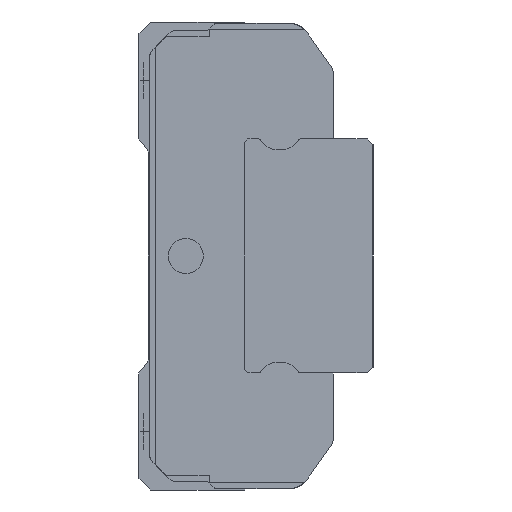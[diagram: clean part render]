
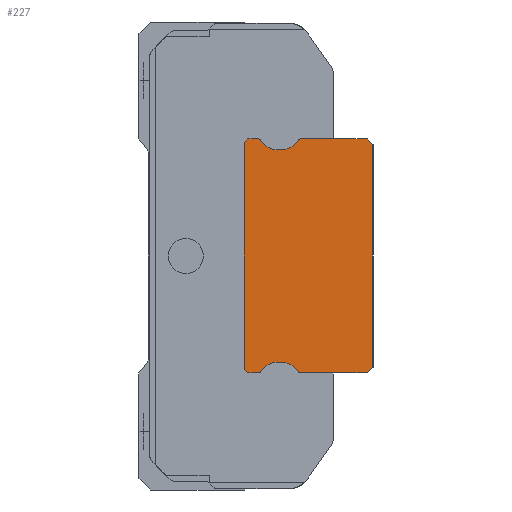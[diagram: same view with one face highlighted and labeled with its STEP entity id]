
A CAD part, left-side view. The second image highlights one B-rep face of the part: STEP entity #227.
In plain terms, the highlighted planar face has unit normal (-1, 0, 0).
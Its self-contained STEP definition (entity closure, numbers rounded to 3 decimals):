
#227 = ADVANCED_FACE( '', ( #668 ), #669, .F. );
#668 = FACE_OUTER_BOUND( '', #1295, .T. );
#669 = PLANE( '', #1296 );
#1295 = EDGE_LOOP( '', ( #2473, #2474, #2475, #2476, #2477, #2478, #2479, #2480, #2481, #2482, #2483, #2484, #2485, #2486, #2487, #2488, #2489, #2490 ) );
#1296 = AXIS2_PLACEMENT_3D( '', #2491, #2492, #2493 );
#2473 = ORIENTED_EDGE( '', *, *, #4267, .F. );
#2474 = ORIENTED_EDGE( '', *, *, #4216, .F. );
#2475 = ORIENTED_EDGE( '', *, *, #4220, .F. );
#2476 = ORIENTED_EDGE( '', *, *, #4223, .F. );
#2477 = ORIENTED_EDGE( '', *, *, #4226, .F. );
#2478 = ORIENTED_EDGE( '', *, *, #4229, .F. );
#2479 = ORIENTED_EDGE( '', *, *, #4232, .F. );
#2480 = ORIENTED_EDGE( '', *, *, #4235, .F. );
#2481 = ORIENTED_EDGE( '', *, *, #4238, .F. );
#2482 = ORIENTED_EDGE( '', *, *, #4241, .F. );
#2483 = ORIENTED_EDGE( '', *, *, #4244, .F. );
#2484 = ORIENTED_EDGE( '', *, *, #4247, .F. );
#2485 = ORIENTED_EDGE( '', *, *, #4250, .F. );
#2486 = ORIENTED_EDGE( '', *, *, #4253, .F. );
#2487 = ORIENTED_EDGE( '', *, *, #4256, .F. );
#2488 = ORIENTED_EDGE( '', *, *, #4259, .F. );
#2489 = ORIENTED_EDGE( '', *, *, #4262, .F. );
#2490 = ORIENTED_EDGE( '', *, *, #4265, .F. );
#2491 = CARTESIAN_POINT( '', ( -20., 0., 0. ) );
#2492 = DIRECTION( '', ( 1., 0., 0. ) );
#2493 = DIRECTION( '', ( 0., 0., -1. ) );
#4216 = EDGE_CURVE( '', #5099, #5101, #5102, .T. );
#4220 = EDGE_CURVE( '', #5106, #5099, #5108, .T. );
#4223 = EDGE_CURVE( '', #5111, #5106, #5113, .T. );
#4226 = EDGE_CURVE( '', #5116, #5111, #5118, .T. );
#4229 = EDGE_CURVE( '', #5121, #5116, #5123, .T. );
#4232 = EDGE_CURVE( '', #5126, #5121, #5128, .T. );
#4235 = EDGE_CURVE( '', #5131, #5126, #5133, .T. );
#4238 = EDGE_CURVE( '', #5136, #5131, #5138, .T. );
#4241 = EDGE_CURVE( '', #5141, #5136, #5143, .T. );
#4244 = EDGE_CURVE( '', #5146, #5141, #5148, .T. );
#4247 = EDGE_CURVE( '', #5151, #5146, #5153, .T. );
#4250 = EDGE_CURVE( '', #5156, #5151, #5158, .T. );
#4253 = EDGE_CURVE( '', #5161, #5156, #5163, .T. );
#4256 = EDGE_CURVE( '', #5166, #5161, #5168, .T. );
#4259 = EDGE_CURVE( '', #5171, #5166, #5173, .T. );
#4262 = EDGE_CURVE( '', #5176, #5171, #5178, .T. );
#4265 = EDGE_CURVE( '', #5181, #5176, #5183, .T. );
#4267 = EDGE_CURVE( '', #5101, #5181, #5185, .T. );
#5099 = VERTEX_POINT( '', #6402 );
#5101 = VERTEX_POINT( '', #6405 );
#5102 = LINE( '', #6406, #6407 );
#5106 = VERTEX_POINT( '', #6412 );
#5108 = CIRCLE( '', #6415, 0.2 );
#5111 = VERTEX_POINT( '', #6418 );
#5113 = CIRCLE( '', #6421, 1.75 );
#5116 = VERTEX_POINT( '', #6424 );
#5118 = CIRCLE( '', #6427, 1.75 );
#5121 = VERTEX_POINT( '', #6430 );
#5123 = CIRCLE( '', #6433, 0.2 );
#5126 = VERTEX_POINT( '', #6437 );
#5128 = LINE( '', #6440, #6441 );
#5131 = VERTEX_POINT( '', #6445 );
#5133 = LINE( '', #6448, #6449 );
#5136 = VERTEX_POINT( '', #6453 );
#5138 = LINE( '', #6456, #6457 );
#5141 = VERTEX_POINT( '', #6461 );
#5143 = LINE( '', #6464, #6465 );
#5146 = VERTEX_POINT( '', #6469 );
#5148 = LINE( '', #6472, #6473 );
#5151 = VERTEX_POINT( '', #6476 );
#5153 = CIRCLE( '', #6479, 0.2 );
#5156 = VERTEX_POINT( '', #6482 );
#5158 = CIRCLE( '', #6485, 1.75 );
#5161 = VERTEX_POINT( '', #6488 );
#5163 = CIRCLE( '', #6491, 1.75 );
#5166 = VERTEX_POINT( '', #6494 );
#5168 = CIRCLE( '', #6497, 0.2 );
#5171 = VERTEX_POINT( '', #6501 );
#5173 = LINE( '', #6504, #6505 );
#5176 = VERTEX_POINT( '', #6509 );
#5178 = LINE( '', #6512, #6513 );
#5181 = VERTEX_POINT( '', #6517 );
#5183 = LINE( '', #6520, #6521 );
#5185 = LINE( '', #6524, #6525 );
#6402 = CARTESIAN_POINT( '', ( -20., 6.222, 10. ) );
#6405 = CARTESIAN_POINT( '', ( -20., 0.5, 10. ) );
#6406 = CARTESIAN_POINT( '', ( -20., 6.222, 10. ) );
#6407 = VECTOR( '', #8148, 1. );
#6412 = CARTESIAN_POINT( '', ( -20., 6.393, 9.904 ) );
#6415 = AXIS2_PLACEMENT_3D( '', #8154, #8155, #8156 );
#6418 = CARTESIAN_POINT( '', ( -20., 8., 9.063 ) );
#6421 = AXIS2_PLACEMENT_3D( '', #8161, #8162, #8163 );
#6424 = CARTESIAN_POINT( '', ( -20., 9.607, 9.904 ) );
#6427 = AXIS2_PLACEMENT_3D( '', #8168, #8169, #8170 );
#6430 = CARTESIAN_POINT( '', ( -20., 9.778, 10. ) );
#6433 = AXIS2_PLACEMENT_3D( '', #8175, #8176, #8177 );
#6437 = CARTESIAN_POINT( '', ( -20., 10.7, 10. ) );
#6440 = CARTESIAN_POINT( '', ( -20., 10.7, 10. ) );
#6441 = VECTOR( '', #8180, 1. );
#6445 = CARTESIAN_POINT( '', ( -20., 11., 9.7 ) );
#6448 = CARTESIAN_POINT( '', ( -20., 11., 9.7 ) );
#6449 = VECTOR( '', #8183, 1. );
#6453 = CARTESIAN_POINT( '', ( -20., 11., -9.7 ) );
#6456 = CARTESIAN_POINT( '', ( -20., 11., -9.7 ) );
#6457 = VECTOR( '', #8186, 1. );
#6461 = CARTESIAN_POINT( '', ( -20., 10.7, -10. ) );
#6464 = CARTESIAN_POINT( '', ( -20., 10.7, -10. ) );
#6465 = VECTOR( '', #8189, 1. );
#6469 = CARTESIAN_POINT( '', ( -20., 9.778, -10. ) );
#6472 = CARTESIAN_POINT( '', ( -20., 9.778, -10. ) );
#6473 = VECTOR( '', #8192, 1. );
#6476 = CARTESIAN_POINT( '', ( -20., 9.607, -9.904 ) );
#6479 = AXIS2_PLACEMENT_3D( '', #8197, #8198, #8199 );
#6482 = CARTESIAN_POINT( '', ( -20., 8., -9.063 ) );
#6485 = AXIS2_PLACEMENT_3D( '', #8204, #8205, #8206 );
#6488 = CARTESIAN_POINT( '', ( -20., 6.393, -9.904 ) );
#6491 = AXIS2_PLACEMENT_3D( '', #8211, #8212, #8213 );
#6494 = CARTESIAN_POINT( '', ( -20., 6.222, -10. ) );
#6497 = AXIS2_PLACEMENT_3D( '', #8218, #8219, #8220 );
#6501 = CARTESIAN_POINT( '', ( -20., 0.5, -10. ) );
#6504 = CARTESIAN_POINT( '', ( -20., 0.5, -10. ) );
#6505 = VECTOR( '', #8223, 1. );
#6509 = CARTESIAN_POINT( '', ( -20., 0., -9.5 ) );
#6512 = CARTESIAN_POINT( '', ( -20., 0., -9.5 ) );
#6513 = VECTOR( '', #8226, 1. );
#6517 = CARTESIAN_POINT( '', ( -20., 0., 9.5 ) );
#6520 = CARTESIAN_POINT( '', ( -20., 0., 9.5 ) );
#6521 = VECTOR( '', #8229, 1. );
#6524 = CARTESIAN_POINT( '', ( -20., 0.5, 10. ) );
#6525 = VECTOR( '', #8231, 1. );
#8148 = DIRECTION( '', ( 0., -1., 0. ) );
#8154 = CARTESIAN_POINT( '', ( -20., 6.222, 9.8 ) );
#8155 = DIRECTION( '', ( 1., 0., 0. ) );
#8156 = DIRECTION( '', ( 0., 0.855, 0.518 ) );
#8161 = CARTESIAN_POINT( '', ( -20., 7.89, 10.81 ) );
#8162 = DIRECTION( '', ( -1., 0., 0. ) );
#8163 = DIRECTION( '', ( 0., 0.063, -0.998 ) );
#8168 = CARTESIAN_POINT( '', ( -20., 8.11, 10.81 ) );
#8169 = DIRECTION( '', ( -1., 0., 0. ) );
#8170 = DIRECTION( '', ( 0., 0.855, -0.518 ) );
#8175 = CARTESIAN_POINT( '', ( -20., 9.778, 9.8 ) );
#8176 = DIRECTION( '', ( 1., 0., 0. ) );
#8177 = DIRECTION( '', ( 0., 0., 1. ) );
#8180 = DIRECTION( '', ( 0., -1., 0. ) );
#8183 = DIRECTION( '', ( 0., -0.707, 0.707 ) );
#8186 = DIRECTION( '', ( 0., 0., 1. ) );
#8189 = DIRECTION( '', ( 0., 0.707, 0.707 ) );
#8192 = DIRECTION( '', ( 0., 1., 0. ) );
#8197 = CARTESIAN_POINT( '', ( -20., 9.778, -9.8 ) );
#8198 = DIRECTION( '', ( 1., 0., 0. ) );
#8199 = DIRECTION( '', ( 0., -0.855, -0.518 ) );
#8204 = CARTESIAN_POINT( '', ( -20., 8.11, -10.81 ) );
#8205 = DIRECTION( '', ( -1., 0., 0. ) );
#8206 = DIRECTION( '', ( 0., -0.063, 0.998 ) );
#8211 = CARTESIAN_POINT( '', ( -20., 7.89, -10.81 ) );
#8212 = DIRECTION( '', ( -1., 0., 0. ) );
#8213 = DIRECTION( '', ( 0., -0.855, 0.518 ) );
#8218 = CARTESIAN_POINT( '', ( -20., 6.222, -9.8 ) );
#8219 = DIRECTION( '', ( 1., 0., 0. ) );
#8220 = DIRECTION( '', ( 0., 0., -1. ) );
#8223 = DIRECTION( '', ( 0., 1., 0. ) );
#8226 = DIRECTION( '', ( 0., 0.707, -0.707 ) );
#8229 = DIRECTION( '', ( 0., 0., -1. ) );
#8231 = DIRECTION( '', ( 0., -0.707, -0.707 ) );
